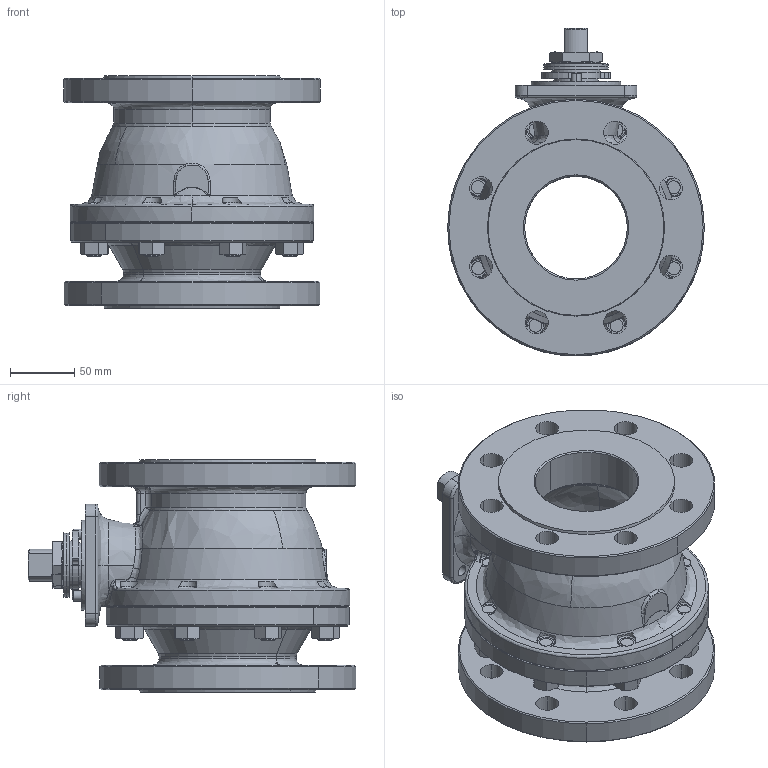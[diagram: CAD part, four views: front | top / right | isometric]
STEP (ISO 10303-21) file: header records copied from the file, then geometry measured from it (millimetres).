
FILE_DESCRIPTION (( 'STEP AP214' ), '1' );
FILE_NAME ('FIG 516 - DN80 eje libre.STEP', '2016-10-03T17:42:03', ( '' ), ( '' ), 'SwSTEP 2.0', 'SolidWorks 2016', '' );
FILE_SCHEMA (( 'AUTOMOTIVE_DESIGN' ));
Length unit declared in the file: millimetre
Products named in the file (15): JT80FV (35x25x2); 200080_41; DIN 934 - M12_DIN 934 - M12; FIG 516 - DN80 eje libre; 5180_07; 5280_46; 0516080C; DIN 6325 - Ø8x18; SM12411414; 5180_10-1; P80G (35x25x5)_Comprimida; 00800930; 0516080L; DIN 2093 - B50; EPI80Q
Assembly tree (31 placements, depth 2):
  FIG 516 - DN80 eje libre
    0516080C
    0516080L
    EPI80Q
    DIN 934 - M12_DIN 934 - M12  x8
    SM12411414  x8
    P80G (35x25x5)_Comprimida  x2
    5180_10-1
    JT80FV (35x25x2)
    00800930
    200080_41
    DIN 2093 - B50  x2
    5280_46
    5180_07
    DIN 6325 - Ø8x18  x2
Bounding box: 200 x 255.5 x 181 mm (x, y, z)
Volume: 2279998.2 mm3; surface area: 406700.6 mm2
Topology: 31 solids, 31 shells, 842 faces, 2008 edges, 1241 vertices
Faces by surface type: cylinder 284, cone 231, plane 200, bspline 117, sphere 8, torus 2
Entity records: 36614 total; most frequent: CARTESIAN_POINT 23020, ORIENTED_EDGE 2826, DIRECTION 2423, EDGE_CURVE 1413, AXIS2_PLACEMENT_3D 1011, VERTEX_POINT 901, EDGE_LOOP 688, FACE_OUTER_BOUND 566
